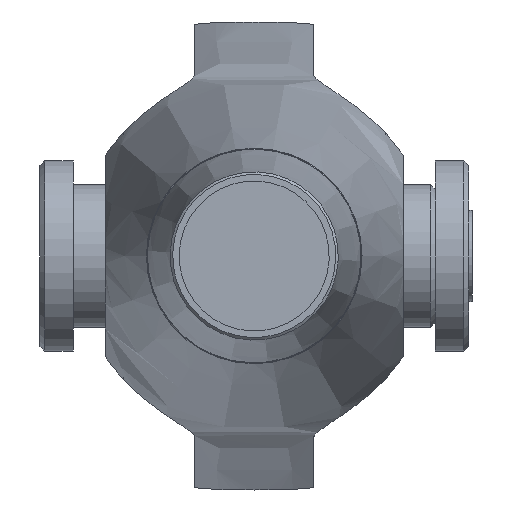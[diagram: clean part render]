
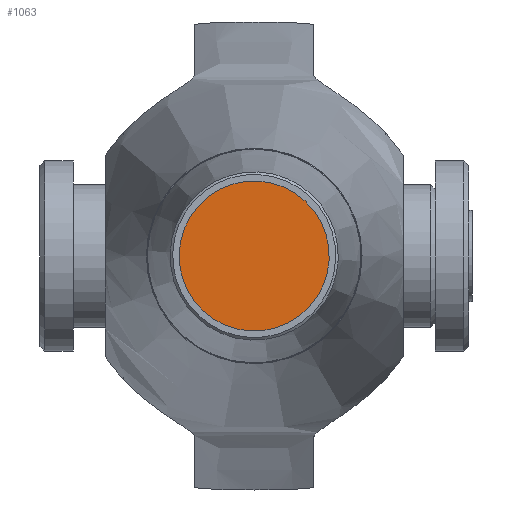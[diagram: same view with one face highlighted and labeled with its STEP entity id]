
A CAD part, left-side view. The second image highlights one B-rep face of the part: STEP entity #1063.
In plain terms, the highlighted planar face has unit normal (-1, 0, 0).
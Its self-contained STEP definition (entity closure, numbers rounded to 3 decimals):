
#84=PLANE('',#1161);
#116=FACE_OUTER_BOUND('',#180,.T.);
#180=EDGE_LOOP('',(#701,#702));
#359=CIRCLE('',#1159,15.75);
#360=CIRCLE('',#1160,15.75);
#427=VERTEX_POINT('',#1618);
#428=VERTEX_POINT('',#1620);
#537=EDGE_CURVE('',#428,#427,#359,.T.);
#538=EDGE_CURVE('',#427,#428,#360,.T.);
#701=ORIENTED_EDGE('',*,*,#537,.T.);
#702=ORIENTED_EDGE('',*,*,#538,.T.);
#1063=ADVANCED_FACE('',(#116),#84,.T.);
#1159=AXIS2_PLACEMENT_3D('',#1621,#1310,#1311);
#1160=AXIS2_PLACEMENT_3D('',#1622,#1312,#1313);
#1161=AXIS2_PLACEMENT_3D('',#1623,#1314,#1315);
#1310=DIRECTION('center_axis',(-1.,0.,0.));
#1311=DIRECTION('ref_axis',(0.,0.992,-0.128));
#1312=DIRECTION('center_axis',(-1.,0.,0.));
#1313=DIRECTION('ref_axis',(0.,0.992,-0.128));
#1314=DIRECTION('center_axis',(-1.,0.,0.));
#1315=DIRECTION('ref_axis',(0.,0.992,-0.128));
#1618=CARTESIAN_POINT('',(-337.5,-2.017,-15.62));
#1620=CARTESIAN_POINT('',(-337.5,2.017,15.62));
#1621=CARTESIAN_POINT('Origin',(-337.5,0.,
0.));
#1622=CARTESIAN_POINT('Origin',(-337.5,0.,
0.));
#1623=CARTESIAN_POINT('Origin',(-337.5,0.,
0.));
